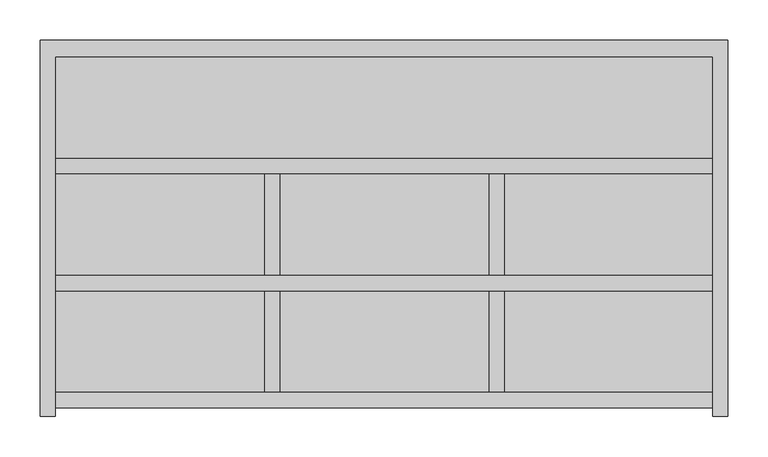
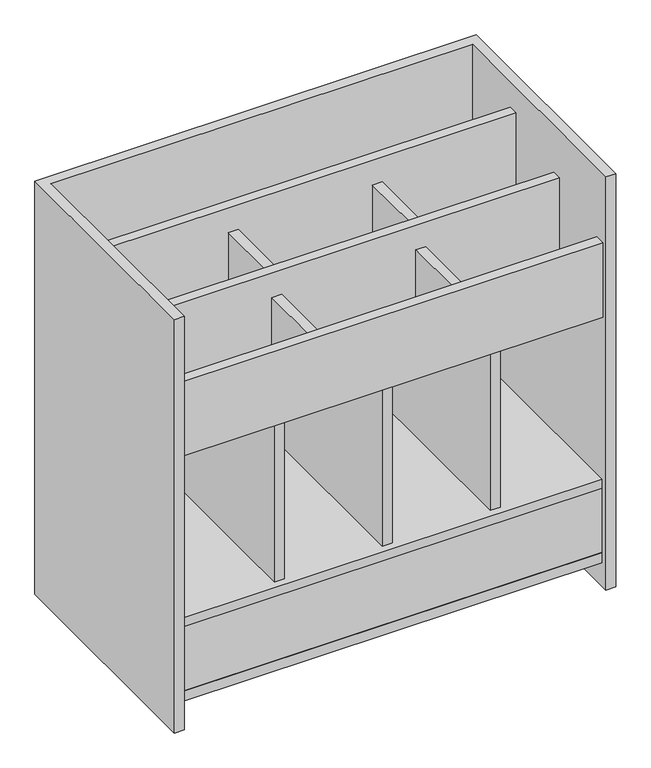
"""IFC4 building model written with IfcOpenShell, lengths in millimetres: furniture geometry, BK Library - Sandviken - Bookbrowser Large : BK Library - Sandviken - Bookbrowser."""

import ifcopenshell
import ifcopenshell.guid

model = None  # the IFC model being written
_history = None  # IfcOwnerHistory: only IFC2X3 demands one
_inside = {}  # id of a spatial element -> (the spatial element, [elements in it])
_under = {}  # id of a project, library or spatial element -> (it, [spatial elements below it])
_declared = {}  # id of a project -> (the project, [libraries it declares])
_typed = {}  # id of a type object -> (the type object, [elements of that type])
_made_of = {}  # id of a material, layer set ... -> (it, [elements and type objects made of it])


def new_model(schema):
    """Start an empty IFC model of exactly this schema.

    Asked for "IFC4X3", IfcOpenShell would pick the latest addendum, in which some entities
    have other attributes; the version numbers below select the first issue.
    IFC2X3 requires an IfcOwnerHistory on every rooted entity: one is made here for all.
    """
    global model, _history
    if schema == "IFC4X3":
        model = ifcopenshell.file(schema_version=(4, 3, 0, 0))
    else:
        model = ifcopenshell.file(schema=schema)
    _inside.clear()
    _under.clear()
    _declared.clear()
    _typed.clear()
    _made_of.clear()
    _history = None
    if model.schema == "IFC2X3":
        org = make("IfcOrganization", Name="unknown")
        user = make(
            "IfcPersonAndOrganization",
            ThePerson=make("IfcPerson", FamilyName="unknown"),
            TheOrganization=org,
        )
        app = make(
            "IfcApplication",
            ApplicationDeveloper=org,
            Version="unknown",
            ApplicationFullName="unknown",
            ApplicationIdentifier="unknown",
        )
        _history = make(
            "IfcOwnerHistory",
            OwningUser=user,
            OwningApplication=app,
            ChangeAction="ADDED",
            CreationDate=0,
        )
    return model


def make(cls, **values):
    """One entity of the class cls with the attributes given. An attribute that is None is left unset."""
    return model.create_entity(
        cls, **{name: value for name, value in values.items() if value is not None}
    )


def rooted(cls, **values):
    """An entity with a GlobalId (a new one), such as an element, a storey or a relation."""
    return make(cls, GlobalId=ifcopenshell.guid.new(), OwnerHistory=_history, **values)


def si_unit(unit_type, name, prefix=None):
    """IfcSIUnit, for example si_unit("LENGTHUNIT", "METRE", prefix="MILLI")."""
    return make("IfcSIUnit", UnitType=unit_type, Prefix=prefix, Name=name)


def assignment(units):
    """IfcUnitAssignment: the units of a project."""
    return None if units is None else make("IfcUnitAssignment", Units=units)


def point(xyz):
    """IfcCartesianPoint."""
    return None if xyz is None else make("IfcCartesianPoint", Coordinates=xyz)


def direction(xyz):
    """IfcDirection."""
    return None if xyz is None else make("IfcDirection", DirectionRatios=xyz)


def frame(location, z_axis=None, x_axis=None):
    """IfcAxis2Placement3D, a coordinate frame: its origin and axes. An axis left out is left unset."""
    return make(
        "IfcAxis2Placement3D",
        Location=point(location),
        Axis=direction(z_axis),
        RefDirection=direction(x_axis),
    )


def frame_2d(location, x_axis=None):
    """IfcAxis2Placement2D, a coordinate frame in the plane: its origin and x axis."""
    return make(
        "IfcAxis2Placement2D", Location=point(location), RefDirection=direction(x_axis)
    )


def origin():
    """The frame at (0, 0, 0) with its axes left unset."""
    return frame((0.0, 0.0, 0.0))


def place(relative_to, where):
    """IfcLocalPlacement: puts the frame where relative to a parent placement (None: the world)."""
    return make(
        "IfcLocalPlacement", PlacementRelTo=relative_to, RelativePlacement=where
    )


def context(
    kind, dimensions, precision=None, world=None, true_north=None, identifier=None
):
    """IfcGeometricRepresentationContext, for example the 3D "Model" context."""
    return make(
        "IfcGeometricRepresentationContext",
        ContextIdentifier=identifier,
        ContextType=kind,
        CoordinateSpaceDimension=dimensions,
        Precision=precision,
        WorldCoordinateSystem=world,
        TrueNorth=true_north,
    )


def project(units=None, contexts=None):
    """IfcProject with its units and contexts."""
    return rooted(
        "IfcProject",
        Name="project",
        RepresentationContexts=contexts,
        UnitsInContext=assignment(units),
    )


def spatial(cls, under=None, at=None, **own):
    """A site, building, storey or space (cls), placed at a placement, below another one or the project."""
    s = rooted(cls, ObjectPlacement=at, **own)
    if under is not None:
        _under.setdefault(under.id(), (under, []))[1].append(s)
    return s


def polyline(points):
    """IfcPolyline through the points."""
    return make("IfcPolyline", Points=[point(p) for p in points])


def circle_curve(where, radius):
    """IfcCircle in the frame where."""
    return make("IfcCircle", Position=where, Radius=radius)


def trimmed(basis, trim1, trim2, sense, master):
    """IfcTrimmedCurve: the piece of a basis curve between two trims."""
    return make(
        "IfcTrimmedCurve",
        BasisCurve=basis,
        Trim1=trim1,
        Trim2=trim2,
        SenseAgreement=sense,
        MasterRepresentation=master,
    )


def segment(curve, same_sense, transition):
    """IfcCompositeCurveSegment."""
    return make(
        "IfcCompositeCurveSegment",
        Transition=transition,
        SameSense=same_sense,
        ParentCurve=curve,
    )


def composite_curve(segments, self_intersect=None):
    """IfcCompositeCurve: segments joined end to end."""
    return make("IfcCompositeCurve", Segments=segments, SelfIntersect=self_intersect)


def outline(outer, holes=None, kind="AREA"):
    """IfcArbitraryClosedProfileDef: a profile drawn as a closed curve; with holes, ...WithVoids."""
    if holes is None:
        return make("IfcArbitraryClosedProfileDef", ProfileType=kind, OuterCurve=outer)
    return make(
        "IfcArbitraryProfileDefWithVoids",
        ProfileType=kind,
        OuterCurve=outer,
        InnerCurves=holes,
    )


def extrude(swept, where, along, depth):
    """IfcExtrudedAreaSolid: the profile swept, set in the frame where, extruded along a direction by depth."""
    return make(
        "IfcExtrudedAreaSolid",
        SweptArea=swept,
        Position=where,
        ExtrudedDirection=direction(along),
        Depth=depth,
    )


def faces_of(points, faces, orient=None, outer=None):
    """IfcFace entities. A face is a list of loops; a loop is a list of indices into points, from 0.

    orient and outer hold one flag for each loop. By default every Orientation is true, the
    first loop of a face is its IfcFaceOuterBound and the others are IfcFaceBound.
    """
    made = []
    for i, loops in enumerate(faces):
        bounds = []
        for j, loop in enumerate(loops):
            is_outer = j == 0 if outer is None else outer[i][j]
            bounds.append(
                make(
                    "IfcFaceOuterBound" if is_outer else "IfcFaceBound",
                    Bound=make("IfcPolyLoop", Polygon=[points[k] for k in loop]),
                    Orientation=True if orient is None else orient[i][j],
                )
            )
        made.append(make("IfcFace", Bounds=bounds))
    return made


def faceted_brep(points, faces, orient=None, outer=None, voids=None):
    """IfcFacetedBrep: a solid bounded by flat faces; with voids (closed shells), ...WithVoids."""
    shared = [point(p) for p in points]
    hull = make("IfcClosedShell", CfsFaces=faces_of(shared, faces, orient, outer))
    if voids is None:
        return make("IfcFacetedBrep", Outer=hull)
    return make(
        "IfcFacetedBrepWithVoids",
        Outer=hull,
        Voids=[
            make(cls, CfsFaces=faces_of(shared, fs, o, b)) for cls, fs, o, b in voids
        ],
    )


def shape(context_of_items, identifier, shape_type, items):
    """IfcShapeRepresentation: the items that make up one representation, for example the "Body"."""
    return make(
        "IfcShapeRepresentation",
        ContextOfItems=context_of_items,
        RepresentationIdentifier=identifier,
        RepresentationType=shape_type,
        Items=items,
    )


def source(mapping_origin, context_of_items, identifier, shape_type, items):
    """IfcRepresentationMap: a shape defined once, which mapped items show again and again."""
    return make(
        "IfcRepresentationMap",
        MappingOrigin=mapping_origin,
        MappedRepresentation=shape(context_of_items, identifier, shape_type, items),
    )


def transform(
    local_origin,
    x_axis=None,
    y_axis=None,
    z_axis=None,
    scale=None,
    scale2=None,
    scale3=None,
    uniform=True,
):
    """IfcCartesianTransformationOperator3D, or its non-uniform kind. x_axis, y_axis, z_axis: its Axis1, 2, 3."""
    if uniform:
        return make(
            "IfcCartesianTransformationOperator3D",
            Axis1=direction(x_axis),
            Axis2=direction(y_axis),
            LocalOrigin=point(local_origin),
            Scale=scale,
            Axis3=direction(z_axis),
        )
    return make(
        "IfcCartesianTransformationOperator3DnonUniform",
        Axis1=direction(x_axis),
        Axis2=direction(y_axis),
        LocalOrigin=point(local_origin),
        Scale=scale,
        Axis3=direction(z_axis),
        Scale2=scale2,
        Scale3=scale3,
    )


def mapped(mapping_source, mapping_target):
    """IfcMappedItem: shows the shape of a source again, moved by a transform."""
    return make(
        "IfcMappedItem", MappingSource=mapping_source, MappingTarget=mapping_target
    )


def made_of(thing, what):
    """Note that an element or type object is made of a material, layer set ...; save() writes the relation."""
    if what is not None:
        _made_of.setdefault(what.id(), (what, []))[1].append(thing)
    return thing


def element(
    cls,
    number,
    at=None,
    inside=None,
    cuts=None,
    type_object=None,
    material=None,
    context=None,
    identifier="Body",
    shape_type=None,
    held_by="IfcProductDefinitionShape",
    body=None,
    shapes=None,
    **own,
):
    """One element of the class cls, such as IfcWall. Its Tag is "e" and its number.

    at: its placement. inside: the storey or other place that contains it. cuts: it is an
    opening in that element (IfcRelVoidsElement). A single representation is given by context,
    identifier, shape_type and body (its items); several are given by shapes. held_by: the class
    of the entity that holds the representations. save() writes the other relations.
    """
    e = rooted(cls, Tag="e%d" % number, ObjectPlacement=at, **own)
    if body is not None:
        shapes = [shape(context, identifier, shape_type, body)]
    if shapes is not None:
        e.Representation = make(held_by, Representations=shapes)
    if inside is not None:
        _inside.setdefault(inside.id(), (inside, []))[1].append(e)
    if cuts is not None:
        rooted(
            "IfcRelVoidsElement", RelatingBuildingElement=cuts, RelatedOpeningElement=e
        )
    if type_object is not None:
        _typed.setdefault(type_object.id(), (type_object, []))[1].append(e)
    return made_of(e, material)


def aggregate(whole, parts):
    """IfcRelAggregates: a whole, such as a stair, and the parts it consists of."""
    return rooted("IfcRelAggregates", RelatingObject=whole, RelatedObjects=parts)


def save(model, path):
    """Write the relations noted so far, then the file.

    IfcRelAggregates (storeys below a building ...), IfcRelContainedInSpatialStructure (elements
    in a storey), IfcRelDefinesByType, IfcRelAssociatesMaterial and IfcRelDeclares: one each for
    every whole, place, type object, material and project.
    """
    for whole, parts in _under.values():
        aggregate(whole, parts)
    for where, things in _inside.values():
        rooted(
            "IfcRelContainedInSpatialStructure",
            RelatedElements=things,
            RelatingStructure=where,
        )
    for kind, things in _typed.values():
        rooted("IfcRelDefinesByType", RelatedObjects=things, RelatingType=kind)
    for what, things in _made_of.values():
        rooted("IfcRelAssociatesMaterial", RelatedObjects=things, RelatingMaterial=what)
    for by, libraries in _declared.values():
        rooted("IfcRelDeclares", RelatingContext=by, RelatedDefinitions=libraries)
    model.write(path)


def furniture_0cd5fa17(model_context):
    return source(origin(), model_context, "Body", "SolidModel", [
        extrude(outline(polyline([(410.0, 209.5), (410.0, -225.5), (-410.0, -225.5), (-410.0, 209.5), (410.0, 209.5)])), frame((0.0, 0.0, 48.0), z_axis=(0.0, 0.0, 1.0), x_axis=(1.0, 0.0, 0.0)), (0.0, 0.0, 1.0), 21.0),
        extrude(outline(polyline([(-130.0, -82.5), (-130.0, -209.5), (-149.0, -209.5), (-149.0, -82.5), (-130.0, -82.5)])), frame((0.0, 0.0, 574.0), z_axis=(0.0, 0.0, 1.0), x_axis=(1.0, 0.0, 0.0)), (0.0, 0.0, 1.0), 128.0),
        extrude(outline(polyline([(150.0, -209.5), (131.0, -209.5), (131.0, -82.5), (150.0, -82.5), (150.0, -209.5)])), frame((0.0, 0.0, 574.0), z_axis=(0.0, 0.0, 1.0), x_axis=(1.0, 0.0, 0.0)), (0.0, 0.0, 1.0), 128.0),
        extrude(outline(composite_curve([segment(trimmed(circle_curve(frame_2d((-419.5139404, -164.9857086)), 7.4880908), [point((-427.0020311, -164.9857086))], [point((-412.0258496, -164.9857086))], False, "CARTESIAN"), True, "CONTINUOUS"), segment(trimmed(circle_curve(frame_2d((-419.5139404, -164.9857086)), 7.4880908), [point((-412.0258496, -164.9857086))], [point((-427.0020311, -164.9857086))], False, "CARTESIAN"), True, "CONTINUOUS")], self_intersect=False)), frame((0.0, 0.0, 43.9690337), z_axis=(0.0, 0.0, 1.0), x_axis=(1.0, 0.0, 0.0)), (0.0, 0.0, 1.0), 8.5),
        extrude(outline(composite_curve([segment(trimmed(circle_curve(frame_2d((419.5139404, -164.9857086)), 7.4880908), [point((412.0258496, -164.9857086))], [point((427.0020311, -164.9857086))], False, "CARTESIAN"), True, "CONTINUOUS"), segment(trimmed(circle_curve(frame_2d((419.5139404, -164.9857086)), 7.4880908), [point((427.0020311, -164.9857086))], [point((412.0258496, -164.9857086))], False, "CARTESIAN"), True, "CONTINUOUS")], self_intersect=False)), frame((0.0, 0.0, 43.9690337), z_axis=(0.0, 0.0, 1.0), x_axis=(1.0, 0.0, 0.0)), (0.0, 0.0, 1.0), 8.5),
        extrude(outline(composite_curve([segment(trimmed(circle_curve(frame_2d((-419.5139404, 164.9857086)), 7.4880908), [point((-427.0020311, 164.9857086))], [point((-412.0258496, 164.9857086))], False, "CARTESIAN"), True, "CONTINUOUS"), segment(trimmed(circle_curve(frame_2d((-419.5139404, 164.9857086)), 7.4880908), [point((-412.0258496, 164.9857086))], [point((-427.0020311, 164.9857086))], False, "CARTESIAN"), True, "CONTINUOUS")], self_intersect=False)), frame((0.0, 0.0, 43.9690337), z_axis=(0.0, 0.0, 1.0), x_axis=(1.0, 0.0, 0.0)), (0.0, 0.0, 1.0), 8.5),
        extrude(outline(composite_curve([segment(trimmed(circle_curve(frame_2d((419.5139404, 164.9857086)), 7.4880908), [point((412.0258496, 164.9857086))], [point((427.0020311, 164.9857086))], False, "CARTESIAN"), True, "CONTINUOUS"), segment(trimmed(circle_curve(frame_2d((419.5139404, 164.9857086)), 7.4880908), [point((427.0020311, 164.9857086))], [point((412.0258496, 164.9857086))], False, "CARTESIAN"), True, "CONTINUOUS")], self_intersect=False)), frame((0.0, 0.0, 43.9690337), z_axis=(0.0, 0.0, 1.0), x_axis=(1.0, 0.0, 0.0)), (0.0, 0.0, 1.0), 8.5),
        extrude(outline(polyline([(-199.75, 180.5), (-199.75, -211.5), (-218.75, -211.5), (-218.75, 180.5), (-199.75, 180.5)])), frame((0.0, 0.0, 220.0), z_axis=(0.0, 0.0, 1.0), x_axis=(1.0, 0.0, 0.0)), (0.0, 0.0, 1.0), 335.0),
        extrude(outline(polyline([(10.25, -211.5), (-8.75, -211.5), (-8.75, 180.5), (10.25, 180.5), (10.25, -211.5)])), frame((0.0, 0.0, 220.0), z_axis=(0.0, 0.0, 1.0), x_axis=(1.0, 0.0, 0.0)), (0.0, 0.0, 1.0), 335.0),
        extrude(outline(polyline([(220.25, -211.5), (201.25, -211.5), (201.25, 180.5), (220.25, 180.5), (220.25, -211.5)])), frame((0.0, 0.0, 220.0), z_axis=(0.0, 0.0, 1.0), x_axis=(1.0, 0.0, 0.0)), (0.0, 0.0, 1.0), 335.0),
        extrude(outline(polyline([(-130.0, 63.5), (-130.0, -63.5), (-149.0, -63.5), (-149.0, 63.5), (-130.0, 63.5)])), frame((0.0, 0.0, 619.0), z_axis=(0.0, 0.0, 1.0), x_axis=(1.0, 0.0, 0.0)), (0.0, 0.0, 1.0), 128.0),
        extrude(outline(polyline([(150.0, -63.5), (131.0, -63.5), (131.0, 63.5), (150.0, 63.5), (150.0, -63.5)])), frame((0.0, 0.0, 619.0), z_axis=(0.0, 0.0, 1.0), x_axis=(1.0, 0.0, 0.0)), (0.0, 0.0, 1.0), 128.0),
        extrude(outline(polyline([(209.5, 555.0), (-209.5, 555.0), (-209.5, 574.0), (-82.5, 574.0), (-82.5, 753.0), (-63.5, 753.0), (-63.5, 619.0), (63.5, 619.0), (63.5, 798.0), (82.5, 798.0), (82.5, 664.0), (209.5, 664.0), (209.5, 645.0), (82.5, 645.0), (82.5, 574.0), (209.5, 574.0), (209.5, 555.0)])), frame((-410.0, 0.0, 0.0), z_axis=(1.0, 0.0, 0.0), x_axis=(0.0, 1.0, 0.0)), (0.0, 0.0, 1.0), 820.0),
        extrude(outline(polyline([(410.0, 209.5), (410.0, -225.5), (-410.0, -225.5), (-410.0, 209.5), (410.0, 209.5)])), frame((0.0, 0.0, 201.0), z_axis=(0.0, 0.0, 1.0), x_axis=(1.0, 0.0, 0.0)), (0.0, 0.0, 1.0), 19.0),
        faceted_brep([(-410.0, -239.5, 0.0), (-410.0, 230.5, 0.0), (-410.0, 230.5, 48.0), (-410.0, 209.5, 48.0), (-410.0, 209.5, 850.0), (-410.0, -239.5, 850.0), (-410.0, -209.5, 708.0), (-410.0, -209.5, 555.0), (-410.0, -228.5, 555.0), (-410.0, -228.5, 708.0), (-410.0, -204.5, 201.0), (-410.0, -204.5, 69.0), (-410.0, -225.5, 69.0), (-410.0, -225.5, 201.0), (-429.0, -239.5, 0.0), (-429.0, -239.5, 850.0), (-429.0, 230.5, 850.0), (-429.0, 230.5, 0.0), (429.0, 230.5, 850.0), (429.0, 230.5, 0.0), (410.0, 230.5, 0.0), (410.0, 230.5, 48.0), (410.0, 209.5, 850.0), (410.0, -239.5, 850.0), (429.0, -239.5, 850.0), (410.0, 209.5, 48.0), (410.0, -239.5, 0.0), (410.0, -209.5, 555.0), (410.0, -209.5, 708.0), (410.0, -228.5, 708.0), (410.0, -228.5, 555.0), (410.0, -204.5, 69.0), (410.0, -204.5, 201.0), (410.0, -225.5, 201.0), (410.0, -225.5, 69.0), (429.0, -239.5, 0.0)], [[[0, 1, 2, 3, 4, 5], [6, 7, 8, 9], [10, 11, 12, 13]], [[14, 15, 16, 17]], [[1, 0, 14, 17]], [[17, 16, 18, 19, 20, 21, 2, 1]], [[16, 15, 5, 4, 22, 23, 24, 18]], [[0, 5, 15, 14]], [[22, 4, 3, 25]], [[25, 3, 2, 21]], [[26, 23, 22, 25, 21, 20], [27, 28, 29, 30], [31, 32, 33, 34]], [[35, 19, 18, 24]], [[26, 20, 19, 35]], [[23, 26, 35, 24]], [[27, 7, 6, 28]], [[28, 6, 9, 29]], [[29, 9, 8, 30]], [[7, 27, 30, 8]], [[31, 11, 10, 32]], [[32, 10, 13, 33]], [[33, 13, 12, 34]], [[11, 31, 34, 12]]]),
    ])


if __name__ == "__main__":
    model = new_model("IFC4")
    model_context = context("Model", 3, world=origin())
    ifc_project = project(units=[si_unit("LENGTHUNIT", "METRE", prefix="MILLI")], contexts=[model_context])
    site = spatial("IfcSite", under=ifc_project)
    building = spatial("IfcBuilding", under=site)
    placement = place(None, origin())
    furniture_shape = furniture_0cd5fa17(model_context)
    element("IfcFurniture", 1, ObjectType="BK Library - Sandviken - Bookbrowser Large : BK Library - Sandviken - Bookbrowser", at=placement, inside=building, context=model_context, shape_type="MappedRepresentation", body=[
        mapped(furniture_shape, transform((0.0, 0.0, 0.0), x_axis=(1.0, 0.0, 0.0), y_axis=(0.0, 1.0, 0.0), z_axis=(0.0, 0.0, 1.0))),
    ])
    save(model, "model.ifc")
